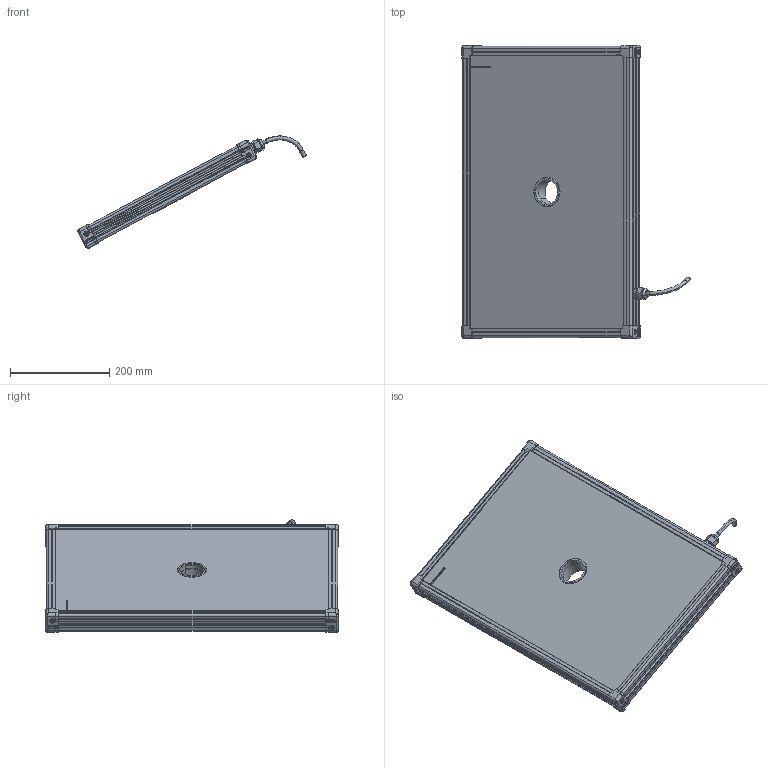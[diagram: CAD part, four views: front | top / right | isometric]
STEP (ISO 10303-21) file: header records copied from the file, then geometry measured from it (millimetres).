
FILE_DESCRIPTION (( 'STEP AP214' ), '1' );
FILE_NAME ('EFFI-BL-350-550-ZZZ-1M12P.STEP', '2021-06-21T08:48:38', ( '' ), ( '' ), 'SwSTEP 2.0', 'SolidWorks 2021', '' );
FILE_SCHEMA (( 'AUTOMOTIVE_DESIGN' ));
Length unit declared in the file: millimetre
Products named in the file (13): Pièce13^EFFI-BL-XXX-YYY-ZZZ (1 connecteur) M12POWER Ø50; Assemblage Ø50; 000629; 000590; petite joue + vis; profile Y_PERCE; petite joue; M12 power_AVEC CABLE D8.1; profile X_PERCE; 001040; 001039; EFFI-BL-350-550-ZZZ-1M12P
Assembly tree (19 placements, depth 3):
  EFFI-BL-350-550-ZZZ-1M12P
    profile X_PERCE  x2
    profile Y_PERCE
    profile Y_PERCE
    Pièce13^EFFI-BL-XXX-YYY-ZZZ (1 connecteur) M12POWER Ø50
    petite joue + vis  x4
      petite joue
      000629
    M12 power_AVEC CABLE D8.1
    Assemblage Ø50
      001039
      001040
      000590  x3
Bounding box: 459 x 589 x 226.16 mm (x, y, z)
Volume: 7863442.6 mm3; surface area: 777138.5 mm2
Topology: 22 solids, 25 shells, 3946 faces, 10510 edges, 6901 vertices
Faces by surface type: plane 2446, cylinder 718, bspline 591, cone 154, torus 29, sphere 8
Entity records: 55870 total; most frequent: CARTESIAN_POINT 22540, ORIENTED_EDGE 6994, DIRECTION 5720, EDGE_CURVE 3499, LINE 2454, VECTOR 2454, VERTEX_POINT 2302, AXIS2_PLACEMENT_3D 1633
